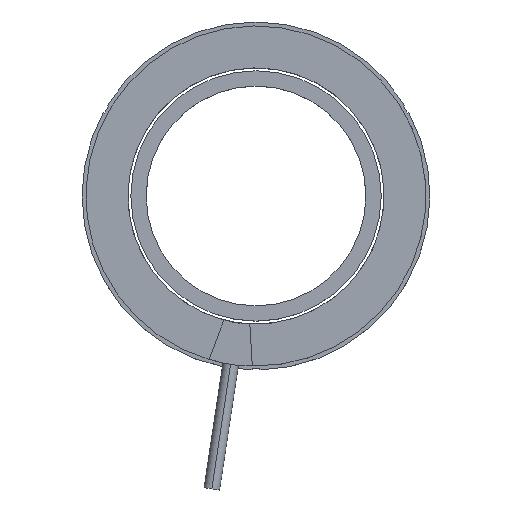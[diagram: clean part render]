
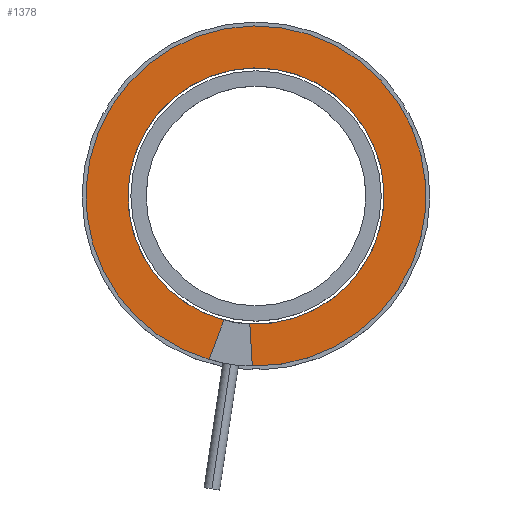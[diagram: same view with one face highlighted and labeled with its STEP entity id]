
A CAD part, top view. The second image highlights one B-rep face of the part: STEP entity #1378.
In plain terms, the highlighted planar face has unit normal (0, 0, 1).
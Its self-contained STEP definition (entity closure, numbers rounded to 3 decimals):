
#56 = ORIENTED_EDGE ( 'NONE', *, *, #3282, .F. ) ;
#62 = VERTEX_POINT ( 'NONE', #1593 ) ;
#68 = EDGE_CURVE ( 'NONE', #402, #3703, #4249, .T. ) ;
#84 = ORIENTED_EDGE ( 'NONE', *, *, #68, .T. ) ;
#109 = CARTESIAN_POINT ( 'NONE',  ( 12.769, 59.998, 91.237 ) ) ;
#193 = CARTESIAN_POINT ( 'NONE',  ( 12.769, 59.998, 91.237 ) ) ;
#402 = VERTEX_POINT ( 'NONE', #957 ) ;
#458 = CARTESIAN_POINT ( 'NONE',  ( 12.769, 59.998, 91.237 ) ) ;
#517 = PLANE ( 'NONE',  #2724 ) ;
#528 = AXIS2_PLACEMENT_3D ( 'NONE', #458, #1686, #725 ) ;
#725 = DIRECTION ( 'NONE',  ( -0.15, -0.989, 0. ) ) ;
#801 = AXIS2_PLACEMENT_3D ( 'NONE', #1271, #2954, #4289 ) ;
#957 = CARTESIAN_POINT ( 'NONE',  ( 22.53, 124.261, 91.237 ) ) ;
#1042 = VERTEX_POINT ( 'NONE', #1988 ) ;
#1271 = CARTESIAN_POINT ( 'NONE',  ( 12.769, 59.998, 91.237 ) ) ;
#1323 = VECTOR ( 'NONE', #2330, 1000. ) ;
#1345 = LINE ( 'NONE', #2659, #1323 ) ;
#1378 = ADVANCED_FACE ( 'NONE', ( #2161 ), #517, .T. ) ;
#1441 = VECTOR ( 'NONE', #3598, 1000. ) ;
#1593 = CARTESIAN_POINT ( 'NONE',  ( 0.514, 12.607, 91.237 ) ) ;
#1686 = DIRECTION ( 'NONE',  ( 0., 0., 1. ) ) ;
#1756 = CIRCLE ( 'NONE', #528, 48.95 ) ;
#1854 = EDGE_CURVE ( 'NONE', #3829, #1042, #2003, .T. ) ;
#1988 = CARTESIAN_POINT ( 'NONE',  ( 20.12, 108.393, 91.237 ) ) ;
#2003 = CIRCLE ( 'NONE', #2557, 48.95 ) ;
#2064 = ORIENTED_EDGE ( 'NONE', *, *, #2237, .F. ) ;
#2161 = FACE_OUTER_BOUND ( 'NONE', #2703, .T. ) ;
#2234 = CARTESIAN_POINT ( 'NONE',  ( 12.769, 59.998, 91.237 ) ) ;
#2237 = EDGE_CURVE ( 'NONE', #2409, #3829, #1345, .T. ) ;
#2330 = DIRECTION ( 'NONE',  ( -0.059, 0.998, 0. ) ) ;
#2409 = VERTEX_POINT ( 'NONE', #3399 ) ;
#2505 = DIRECTION ( 'NONE',  ( -0.15, -0.989, 0. ) ) ;
#2535 = CIRCLE ( 'NONE', #801, 65. ) ;
#2557 = AXIS2_PLACEMENT_3D ( 'NONE', #109, #2673, #2749 ) ;
#2659 = CARTESIAN_POINT ( 'NONE',  ( 10.401, 11.106, 91.237 ) ) ;
#2673 = DIRECTION ( 'NONE',  ( 0., 0., 1. ) ) ;
#2703 = EDGE_LOOP ( 'NONE', ( #2064, #3229, #84, #4106, #56, #3749 ) ) ;
#2724 = AXIS2_PLACEMENT_3D ( 'NONE', #193, #3262, #2505 ) ;
#2749 = DIRECTION ( 'NONE',  ( -0.15, -0.989, 0. ) ) ;
#2792 = EDGE_CURVE ( 'NONE', #62, #3703, #3554, .T. ) ;
#2948 = DIRECTION ( 'NONE',  ( -0.15, -0.989, 0. ) ) ;
#2954 = DIRECTION ( 'NONE',  ( 0., 0., 1. ) ) ;
#3003 = CARTESIAN_POINT ( 'NONE',  ( 10.401, 11.106, 91.237 ) ) ;
#3223 = CARTESIAN_POINT ( 'NONE',  ( 0.514, 12.607, 91.237 ) ) ;
#3229 = ORIENTED_EDGE ( 'NONE', *, *, #4028, .T. ) ;
#3262 = DIRECTION ( 'NONE',  ( 0., 0., 1. ) ) ;
#3282 = EDGE_CURVE ( 'NONE', #1042, #62, #1756, .T. ) ;
#3399 = CARTESIAN_POINT ( 'NONE',  ( 11.347, -4.986, 91.237 ) ) ;
#3554 = LINE ( 'NONE', #3223, #1441 ) ;
#3560 = AXIS2_PLACEMENT_3D ( 'NONE', #2234, #4261, #2948 ) ;
#3598 = DIRECTION ( 'NONE',  ( -0.352, -0.936, 0. ) ) ;
#3703 = VERTEX_POINT ( 'NONE', #3813 ) ;
#3749 = ORIENTED_EDGE ( 'NONE', *, *, #1854, .F. ) ;
#3813 = CARTESIAN_POINT ( 'NONE',  ( -5.167, -2.478, 91.237 ) ) ;
#3829 = VERTEX_POINT ( 'NONE', #3003 ) ;
#4028 = EDGE_CURVE ( 'NONE', #2409, #402, #2535, .T. ) ;
#4106 = ORIENTED_EDGE ( 'NONE', *, *, #2792, .F. ) ;
#4249 = CIRCLE ( 'NONE', #3560, 65. ) ;
#4261 = DIRECTION ( 'NONE',  ( 0., 0., 1. ) ) ;
#4289 = DIRECTION ( 'NONE',  ( -0.15, -0.989, 0. ) ) ;
